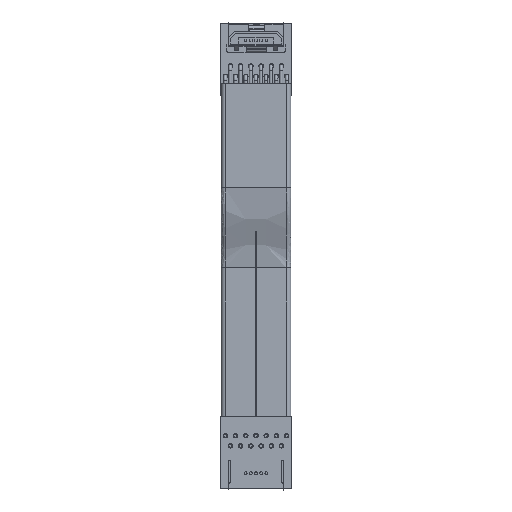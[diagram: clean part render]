
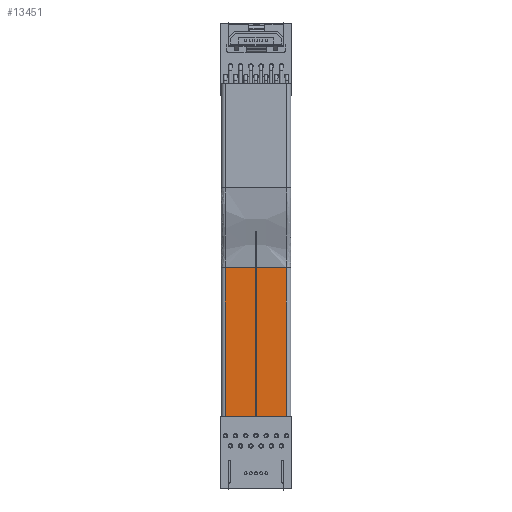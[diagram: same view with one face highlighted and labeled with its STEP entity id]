
A CAD part, top view. The second image highlights one B-rep face of the part: STEP entity #13451.
In plain terms, the highlighted free-form (B-spline) face has degree [3, 1] with [7, 2] control points.
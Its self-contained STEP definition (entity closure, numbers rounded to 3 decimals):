
#11787 = VERTEX_POINT('',#11788);
#11788 = CARTESIAN_POINT('',(0.569,22.977,
    -1.457));
#11870 = VERTEX_POINT('',#11871);
#11871 = CARTESIAN_POINT('',(8.189,22.977,
    -1.457));
#11883 = EDGE_CURVE('',#11787,#11870,#11884,.T.);
#11884 = LINE('',#11885,#11886);
#11885 = CARTESIAN_POINT('',(4.379,22.977,
    -1.457));
#11886 = VECTOR('',#11887,1.);
#11887 = DIRECTION('',(1.,0.,0.));
#13335 = VERTEX_POINT('',#13336);
#13336 = CARTESIAN_POINT('',(0.569,43.,-1.457));
#13343 = EDGE_CURVE('',#13335,#13344,#13346,.T.);
#13344 = VERTEX_POINT('',#13345);
#13345 = CARTESIAN_POINT('',(8.189,43.,-1.457));
#13346 = ( BOUNDED_CURVE() B_SPLINE_CURVE(3,(#13347,#13348,#13349,#13350
    ,#13351,#13352,#13353),.UNSPECIFIED.,.F.,.F.) 
B_SPLINE_CURVE_WITH_KNOTS((4,3,4),(0.505,0.943,1.),
.UNSPECIFIED.) CURVE() GEOMETRIC_REPRESENTATION_ITEM() 
RATIONAL_B_SPLINE_CURVE((1.,1.,1.,1.,0.333,0.333,1.)) 
REPRESENTATION_ITEM('') );
#13347 = CARTESIAN_POINT('',(0.569,43.,-1.457));
#13348 = CARTESIAN_POINT('',(3.109,43.,-1.457));
#13349 = CARTESIAN_POINT('',(5.649,43.,-1.457));
#13350 = CARTESIAN_POINT('',(8.189,43.,-1.457));
#13351 = CARTESIAN_POINT('',(9.189,43.,-1.457));
#13352 = CARTESIAN_POINT('',(9.189,43.,-2.457));
#13353 = CARTESIAN_POINT('',(8.189,43.,-2.457));
#13382 = EDGE_CURVE('',#11787,#13335,#13383,.T.);
#13383 = LINE('',#13384,#13385);
#13384 = CARTESIAN_POINT('',(0.569,32.989,
    -1.457));
#13385 = VECTOR('',#13386,1.);
#13386 = DIRECTION('',(0.,1.,0.));
#13428 = EDGE_CURVE('',#11870,#13344,#13429,.T.);
#13429 = LINE('',#13430,#13431);
#13430 = CARTESIAN_POINT('',(8.189,32.989,
    -1.457));
#13431 = VECTOR('',#13432,1.);
#13432 = DIRECTION('',(0.,1.,0.));
#13451 = ADVANCED_FACE('',(#13452),#13458,.T.);
#13452 = FACE_BOUND('',#13453,.T.);
#13453 = EDGE_LOOP('',(#13454,#13455,#13456,#13457));
#13454 = ORIENTED_EDGE('',*,*,#11883,.T.);
#13455 = ORIENTED_EDGE('',*,*,#13428,.T.);
#13456 = ORIENTED_EDGE('',*,*,#13343,.F.);
#13457 = ORIENTED_EDGE('',*,*,#13382,.F.);
#13458 = ( BOUNDED_SURFACE() B_SPLINE_SURFACE(3,1,(
    (#13459,#13460)
    ,(#13461,#13462)
    ,(#13463,#13464)
    ,(#13465,#13466)
    ,(#13467,#13468)
    ,(#13469,#13470)
    ,(#13471,#13472
)),.UNSPECIFIED.,.F.,.F.,.F.) B_SPLINE_SURFACE_WITH_KNOTS((4,3,4),(2,2),
  (0.505,0.943,1.),(0.,1.),.UNSPECIFIED.) 
GEOMETRIC_REPRESENTATION_ITEM() RATIONAL_B_SPLINE_SURFACE((
    (1.,1.)
    ,(1.,1.)
    ,(1.,1.)
    ,(1.,1.)
    ,(0.333,0.333)
    ,(0.333,0.333)
,(1.,1.))) REPRESENTATION_ITEM('') SURFACE() );
#13459 = CARTESIAN_POINT('',(0.569,22.977,
    -1.457));
#13460 = CARTESIAN_POINT('',(0.569,43.,-1.457));
#13461 = CARTESIAN_POINT('',(3.109,22.977,
    -1.457));
#13462 = CARTESIAN_POINT('',(3.109,43.,-1.457));
#13463 = CARTESIAN_POINT('',(5.649,22.977,
    -1.457));
#13464 = CARTESIAN_POINT('',(5.649,43.,-1.457));
#13465 = CARTESIAN_POINT('',(8.189,22.977,
    -1.457));
#13466 = CARTESIAN_POINT('',(8.189,43.,-1.457));
#13467 = CARTESIAN_POINT('',(9.189,22.977,
    -1.457));
#13468 = CARTESIAN_POINT('',(9.189,43.,-1.457));
#13469 = CARTESIAN_POINT('',(9.189,23.023,
    -2.457));
#13470 = CARTESIAN_POINT('',(9.189,43.,-2.457));
#13471 = CARTESIAN_POINT('',(8.189,23.023,
    -2.457));
#13472 = CARTESIAN_POINT('',(8.189,43.,-2.457));
